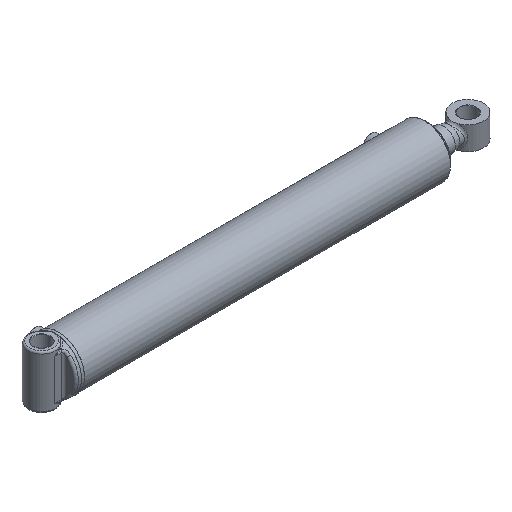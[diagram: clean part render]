
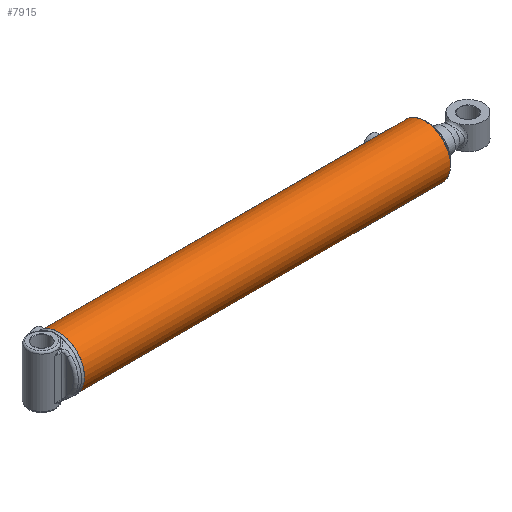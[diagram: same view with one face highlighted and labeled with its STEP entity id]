
A CAD part, isometric view. The second image highlights one B-rep face of the part: STEP entity #7915.
In plain terms, the highlighted cylindrical face has radius 49.212 mm (diameter 98.425 mm), a full revolution.
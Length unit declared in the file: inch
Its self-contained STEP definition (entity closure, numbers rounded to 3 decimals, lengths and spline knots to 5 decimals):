
#653=B_SPLINE_CURVE_WITH_KNOTS('',3,(#11899,#11900,#11901,#11902,#11903,
#11904,#11905,#11906,#11907,#11908),.UNSPECIFIED.,.F.,.F.,(4,2,2,2,4),(0.,
0.17952,0.35904,0.53855,0.71807),
 .UNSPECIFIED.);
#654=B_SPLINE_CURVE_WITH_KNOTS('',3,(#11909,#11910,#11911,#11912,#11913,
#11914,#11915,#11916,#11917,#11918,#11919,#11920,#11921,#11922,#11923,#11924,
#11925,#11926,#11927,#11928,#11929,#11930,#11931,#11932,#11933,#11934),
 .UNSPECIFIED.,.F.,.F.,(4,2,2,2,2,2,2,2,2,2,2,2,4),(0.71807,0.89759,
1.07711,1.25662,1.43614,1.61566,1.79518,
1.97469,2.15421,2.33373,2.51325,2.69276,
2.87228),.UNSPECIFIED.);
#655=B_SPLINE_CURVE_WITH_KNOTS('',3,(#11939,#11940,#11941,#11942,#11943,
#11944,#11945,#11946,#11947,#11948),.UNSPECIFIED.,.F.,.F.,(4,2,2,2,4),(0.,
0.17952,0.35904,0.53855,0.71807),
 .UNSPECIFIED.);
#656=B_SPLINE_CURVE_WITH_KNOTS('',3,(#11949,#11950,#11951,#11952,#11953,
#11954,#11955,#11956,#11957,#11958,#11959,#11960,#11961,#11962,#11963,#11964,
#11965,#11966,#11967,#11968,#11969,#11970,#11971,#11972,#11973,#11974),
 .UNSPECIFIED.,.F.,.F.,(4,2,2,2,2,2,2,2,2,2,2,2,4),(0.71807,0.89759,
1.07711,1.25662,1.43614,1.61566,1.79518,
1.97469,2.15421,2.33373,2.51325,2.69276,
2.87228),.UNSPECIFIED.);
#962=FACE_BOUND('',#2484,.T.);
#963=FACE_BOUND('',#2485,.T.);
#1244=LINE('',#12002,#1570);
#1570=VECTOR('',#9736,1.9375);
#1893=CYLINDRICAL_SURFACE('',#8765,1.9375);
#1987=FACE_OUTER_BOUND('',#2483,.T.);
#2483=EDGE_LOOP('',(#5553,#5554,#5555,#5556,#5557,#5558));
#2484=EDGE_LOOP('',(#5559,#5560));
#2485=EDGE_LOOP('',(#5561,#5562));
#3065=CIRCLE('',#8762,1.9375);
#3067=CIRCLE('',#8764,1.9375);
#3068=CIRCLE('',#8766,1.9375);
#3069=CIRCLE('',#8767,1.9375);
#3547=VERTEX_POINT('',#11896);
#3548=VERTEX_POINT('',#11898);
#3549=VERTEX_POINT('',#11936);
#3550=VERTEX_POINT('',#11938);
#3557=VERTEX_POINT('',#11995);
#3558=VERTEX_POINT('',#11996);
#3559=VERTEX_POINT('',#12001);
#3560=VERTEX_POINT('',#12003);
#4319=EDGE_CURVE('',#3548,#3547,#653,.T.);
#4320=EDGE_CURVE('',#3547,#3548,#654,.T.);
#4322=EDGE_CURVE('',#3550,#3549,#655,.T.);
#4323=EDGE_CURVE('',#3549,#3550,#656,.T.);
#4333=EDGE_CURVE('',#3557,#3558,#3065,.T.);
#4335=EDGE_CURVE('',#3558,#3557,#3067,.T.);
#4336=EDGE_CURVE('',#3557,#3559,#1244,.T.);
#4337=EDGE_CURVE('',#3560,#3559,#3068,.T.);
#4338=EDGE_CURVE('',#3559,#3560,#3069,.T.);
#5553=ORIENTED_EDGE('',*,*,#4333,.F.);
#5554=ORIENTED_EDGE('',*,*,#4336,.T.);
#5555=ORIENTED_EDGE('',*,*,#4337,.F.);
#5556=ORIENTED_EDGE('',*,*,#4338,.F.);
#5557=ORIENTED_EDGE('',*,*,#4336,.F.);
#5558=ORIENTED_EDGE('',*,*,#4335,.F.);
#5559=ORIENTED_EDGE('',*,*,#4319,.T.);
#5560=ORIENTED_EDGE('',*,*,#4320,.T.);
#5561=ORIENTED_EDGE('',*,*,#4322,.T.);
#5562=ORIENTED_EDGE('',*,*,#4323,.T.);
#7915=ADVANCED_FACE('',(#1987,#962,#963),#1893,.T.);
#8762=AXIS2_PLACEMENT_3D('',#11997,#9728,#9729);
#8764=AXIS2_PLACEMENT_3D('',#11999,#9732,#9733);
#8765=AXIS2_PLACEMENT_3D('',#12000,#9734,#9735);
#8766=AXIS2_PLACEMENT_3D('',#12004,#9737,#9738);
#8767=AXIS2_PLACEMENT_3D('',#12005,#9739,#9740);
#9728=DIRECTION('center_axis',(1.,0.,0.));
#9729=DIRECTION('ref_axis',(0.,-1.,0.));
#9732=DIRECTION('center_axis',(1.,0.,0.));
#9733=DIRECTION('ref_axis',(0.,-1.,0.));
#9734=DIRECTION('center_axis',(1.,0.,0.));
#9735=DIRECTION('ref_axis',(0.,-1.,0.));
#9736=DIRECTION('',(-1.,0.,0.));
#9737=DIRECTION('center_axis',(-1.,0.,0.));
#9738=DIRECTION('ref_axis',(0.,-1.,0.));
#9739=DIRECTION('center_axis',(-1.,0.,0.));
#9740=DIRECTION('ref_axis',(0.,-1.,0.));
#11896=CARTESIAN_POINT('',(0.7225,0.,1.9375));
#11898=CARTESIAN_POINT('',(0.91,-0.1875,1.92841));
#11899=CARTESIAN_POINT('Ctrl Pts',(0.91,-0.1875,1.92841));
#11900=CARTESIAN_POINT('Ctrl Pts',(0.88644,-0.1875,1.92841));
#11901=CARTESIAN_POINT('Ctrl Pts',(0.86132,-0.18279,
1.92888));
#11902=CARTESIAN_POINT('Ctrl Pts',(0.81513,-0.16365,
1.9306));
#11903=CARTESIAN_POINT('Ctrl Pts',(0.79406,-0.14922,
1.93182));
#11904=CARTESIAN_POINT('Ctrl Pts',(0.76078,-0.11594,
1.9341));
#11905=CARTESIAN_POINT('Ctrl Pts',(0.74635,-0.09487,
1.93531));
#11906=CARTESIAN_POINT('Ctrl Pts',(0.72721,-0.04868,
1.93703));
#11907=CARTESIAN_POINT('Ctrl Pts',(0.7225,-0.02356,1.9375));
#11908=CARTESIAN_POINT('Ctrl Pts',(0.7225,0.,1.9375));
#11909=CARTESIAN_POINT('Ctrl Pts',(0.7225,0.,1.9375));
#11910=CARTESIAN_POINT('Ctrl Pts',(0.7225,0.02356,1.9375));
#11911=CARTESIAN_POINT('Ctrl Pts',(0.72721,0.04868,
1.93703));
#11912=CARTESIAN_POINT('Ctrl Pts',(0.74635,0.09487,
1.93531));
#11913=CARTESIAN_POINT('Ctrl Pts',(0.76078,0.11594,
1.9341));
#11914=CARTESIAN_POINT('Ctrl Pts',(0.79406,0.14922,
1.93182));
#11915=CARTESIAN_POINT('Ctrl Pts',(0.81513,0.16365,
1.9306));
#11916=CARTESIAN_POINT('Ctrl Pts',(0.86132,0.18279,
1.92888));
#11917=CARTESIAN_POINT('Ctrl Pts',(0.88644,0.1875,1.92841));
#11918=CARTESIAN_POINT('Ctrl Pts',(0.93356,0.1875,1.92841));
#11919=CARTESIAN_POINT('Ctrl Pts',(0.95868,0.18279,
1.92888));
#11920=CARTESIAN_POINT('Ctrl Pts',(1.00487,0.16365,1.9306));
#11921=CARTESIAN_POINT('Ctrl Pts',(1.02594,0.14922,1.93182));
#11922=CARTESIAN_POINT('Ctrl Pts',(1.05922,0.11594,1.9341));
#11923=CARTESIAN_POINT('Ctrl Pts',(1.07365,0.09487,
1.93531));
#11924=CARTESIAN_POINT('Ctrl Pts',(1.09279,0.04868,
1.93703));
#11925=CARTESIAN_POINT('Ctrl Pts',(1.0975,0.02356,1.9375));
#11926=CARTESIAN_POINT('Ctrl Pts',(1.0975,-0.02356,1.9375));
#11927=CARTESIAN_POINT('Ctrl Pts',(1.09279,-0.04868,
1.93703));
#11928=CARTESIAN_POINT('Ctrl Pts',(1.07365,-0.09487,
1.93531));
#11929=CARTESIAN_POINT('Ctrl Pts',(1.05922,-0.11594,
1.9341));
#11930=CARTESIAN_POINT('Ctrl Pts',(1.02594,-0.14922,
1.93182));
#11931=CARTESIAN_POINT('Ctrl Pts',(1.00487,-0.16365,
1.9306));
#11932=CARTESIAN_POINT('Ctrl Pts',(0.95868,-0.18279,
1.92888));
#11933=CARTESIAN_POINT('Ctrl Pts',(0.93356,-0.1875,1.92841));
#11934=CARTESIAN_POINT('Ctrl Pts',(0.91,-0.1875,1.92841));
#11936=CARTESIAN_POINT('',(25.9425,0.,1.9375));
#11938=CARTESIAN_POINT('',(26.13,-0.1875,1.92841));
#11939=CARTESIAN_POINT('Ctrl Pts',(26.13,-0.1875,1.92841));
#11940=CARTESIAN_POINT('Ctrl Pts',(26.10644,-0.1875,
1.92841));
#11941=CARTESIAN_POINT('Ctrl Pts',(26.08132,-0.18279,
1.92888));
#11942=CARTESIAN_POINT('Ctrl Pts',(26.03513,-0.16365,1.9306));
#11943=CARTESIAN_POINT('Ctrl Pts',(26.01406,-0.14922,1.93182));
#11944=CARTESIAN_POINT('Ctrl Pts',(25.98078,-0.11594,
1.9341));
#11945=CARTESIAN_POINT('Ctrl Pts',(25.96635,-0.09487,
1.93531));
#11946=CARTESIAN_POINT('Ctrl Pts',(25.94721,-0.04868,
1.93703));
#11947=CARTESIAN_POINT('Ctrl Pts',(25.9425,-0.02356,1.9375));
#11948=CARTESIAN_POINT('Ctrl Pts',(25.9425,0.,1.9375));
#11949=CARTESIAN_POINT('Ctrl Pts',(25.9425,0.,1.9375));
#11950=CARTESIAN_POINT('Ctrl Pts',(25.9425,0.02356,1.9375));
#11951=CARTESIAN_POINT('Ctrl Pts',(25.94721,0.04868,
1.93703));
#11952=CARTESIAN_POINT('Ctrl Pts',(25.96635,0.09487,
1.93531));
#11953=CARTESIAN_POINT('Ctrl Pts',(25.98078,0.11594,1.9341));
#11954=CARTESIAN_POINT('Ctrl Pts',(26.01406,0.14922,1.93182));
#11955=CARTESIAN_POINT('Ctrl Pts',(26.03513,0.16365,1.9306));
#11956=CARTESIAN_POINT('Ctrl Pts',(26.08132,0.18279,1.92888));
#11957=CARTESIAN_POINT('Ctrl Pts',(26.10644,0.1875,1.92841));
#11958=CARTESIAN_POINT('Ctrl Pts',(26.15356,0.1875,1.92841));
#11959=CARTESIAN_POINT('Ctrl Pts',(26.17868,0.18279,1.92888));
#11960=CARTESIAN_POINT('Ctrl Pts',(26.22487,0.16365,1.9306));
#11961=CARTESIAN_POINT('Ctrl Pts',(26.24594,0.14922,1.93182));
#11962=CARTESIAN_POINT('Ctrl Pts',(26.27922,0.11594,1.9341));
#11963=CARTESIAN_POINT('Ctrl Pts',(26.29365,0.09487,
1.93531));
#11964=CARTESIAN_POINT('Ctrl Pts',(26.31279,0.04868,
1.93703));
#11965=CARTESIAN_POINT('Ctrl Pts',(26.3175,0.02356,1.9375));
#11966=CARTESIAN_POINT('Ctrl Pts',(26.3175,-0.02356,1.9375));
#11967=CARTESIAN_POINT('Ctrl Pts',(26.31279,-0.04868,
1.93703));
#11968=CARTESIAN_POINT('Ctrl Pts',(26.29365,-0.09487,
1.93531));
#11969=CARTESIAN_POINT('Ctrl Pts',(26.27922,-0.11594,
1.9341));
#11970=CARTESIAN_POINT('Ctrl Pts',(26.24594,-0.14922,1.93182));
#11971=CARTESIAN_POINT('Ctrl Pts',(26.22487,-0.16365,
1.9306));
#11972=CARTESIAN_POINT('Ctrl Pts',(26.17868,-0.18279,1.92888));
#11973=CARTESIAN_POINT('Ctrl Pts',(26.15356,-0.1875,
1.92841));
#11974=CARTESIAN_POINT('Ctrl Pts',(26.13,-0.1875,1.92841));
#11995=CARTESIAN_POINT('',(27.56,1.9375,0.));
#11996=CARTESIAN_POINT('',(27.56,0.,-1.9375));
#11997=CARTESIAN_POINT('Origin',(27.56,0.,0.));
#11999=CARTESIAN_POINT('Origin',(27.56,0.,0.));
#12000=CARTESIAN_POINT('Origin',(0.,0.,0.));
#12001=CARTESIAN_POINT('',(0.09382,1.9375,0.));
#12002=CARTESIAN_POINT('',(0.,1.9375,0.));
#12003=CARTESIAN_POINT('',(0.09382,0.,1.9375));
#12004=CARTESIAN_POINT('Origin',(0.09382,0.,0.));
#12005=CARTESIAN_POINT('Origin',(0.09382,0.,0.));
